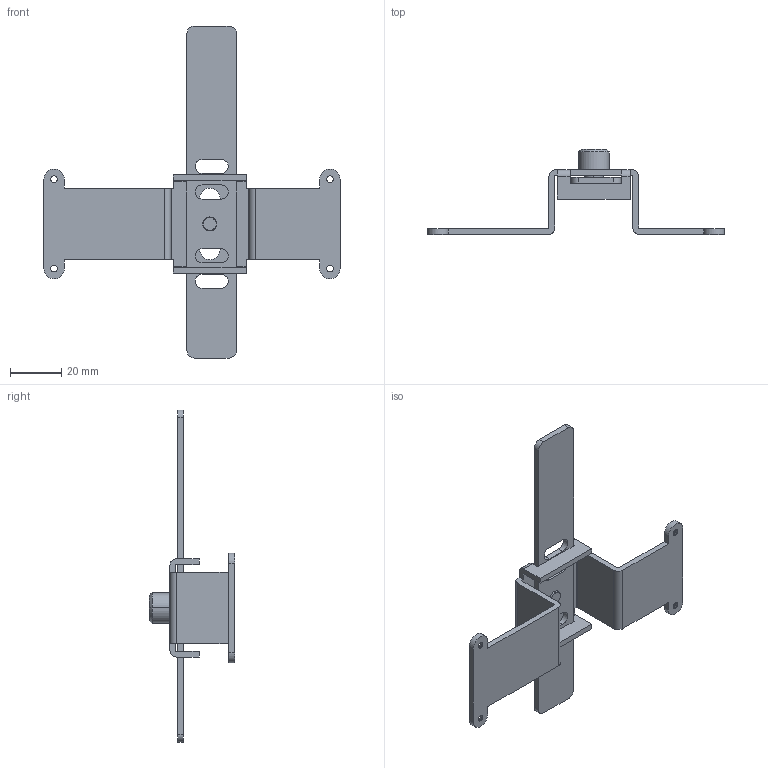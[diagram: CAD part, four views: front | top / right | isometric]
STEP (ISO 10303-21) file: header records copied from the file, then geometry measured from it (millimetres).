
FILE_DESCRIPTION(/* description */ (''),/* implementation_level */ '2;1');
FILE_NAME(/* name */ 'MIF10GM_4P_NRST_3D DATA.stp',/* time_stamp */ '2017-12-29T16:27:11+09:00',/* author */ (''),/* organization */ (''),/* preprocessor_version */ 'ST-DEVELOPER v15',/* originating_system */ 'SIEMENS PLM Software NX 9.0',/* authorisation */ '');
FILE_SCHEMA (('AP203_CONFIGURATION_CONTROLLED_3D_DESIGN_OF_MECHANICAL_PARTS_AND_ASSEMBLIES_MIM_LF { 1 0 10303 403 2 1 2}'));
Length unit declared in the file: millimetre
Products named in the file (5): GC1-PG-8016_R00; GC1-OT-8035_R00; 4ME-08569-1_R00; GC1-PG-8014_R00; GC1-AS-8061_R00
Assembly tree (4 placements, depth 2):
  GC1-AS-8061_R00
    GC1-PG-8014_R00
    4ME-08569-1_R00
    GC1-OT-8035_R00
    GC1-PG-8016_R00
Bounding box: 116 x 33.3 x 130 mm (x, y, z)
Volume: 17766.1 mm3; surface area: 18484.7 mm2
Topology: 4 solids, 4 shells, 132 faces, 364 edges, 238 vertices
Faces by surface type: plane 64, cylinder 58, cone 10
Full cylindrical faces by diameter (mm): 5.5 x4
Entity records: 4782 total; most frequent: DIRECTION 756, CARTESIAN_POINT 735, ORIENTED_EDGE 720, EDGE_CURVE 360, AXIS2_PLACEMENT_3D 259, VERTEX_POINT 238, LINE 238, VECTOR 238
